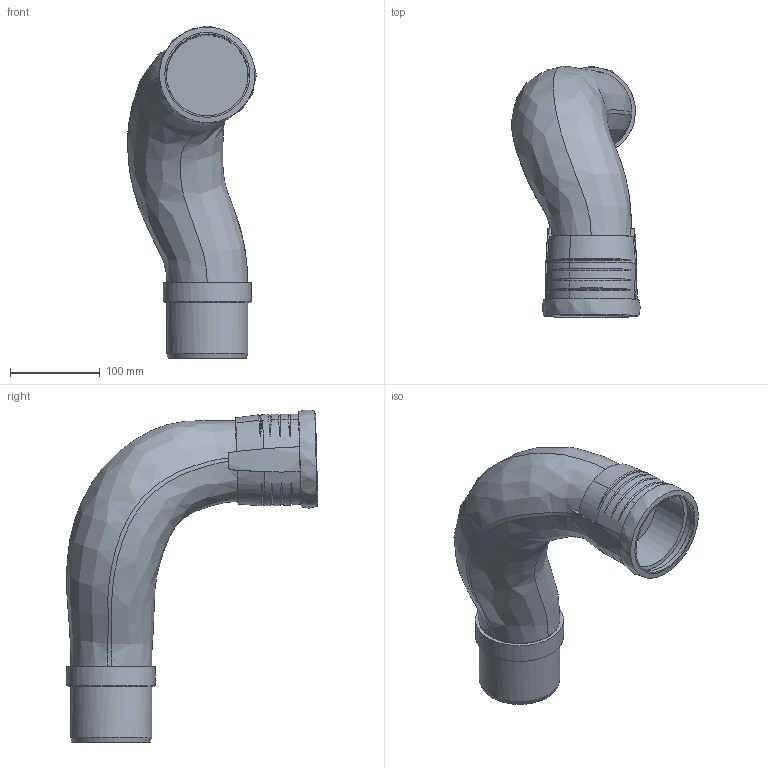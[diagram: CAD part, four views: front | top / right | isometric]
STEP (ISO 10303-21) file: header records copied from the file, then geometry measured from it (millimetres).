
FILE_DESCRIPTION(/* description */ (''),/* implementation_level */ '2;1');
FILE_NAME(/* name */ 'C:\Planerdaten\Export PLA\393.426.14.1\stp\393426.stp',/* time_stamp */ '2022-09-16T14:45:14+02:00',/* author */ ('JANAN'),/* organization */ (''),/* preprocessor_version */ 'ST-DEVELOPER v18.1',/* originating_system */ 'Autodesk Inventor 2021',/* authorisation */ '');
FILE_SCHEMA (('AUTOMOTIVE_DESIGN { 1 0 10303 214 3 1 1 }'));
Length unit declared in the file: millimetre
Products named in the file (1): tmp1EFD.tmp
Bounding box: 143.58 x 280.57 x 370.27 mm (x, y, z)
Volume: 3151427.1 mm3; surface area: 211111 mm2
Topology: 1 solids, 1 shells, 57 faces, 161 edges, 109 vertices
Faces by surface type: bspline 37, plane 7, cylinder 7, cone 6
Full cylindrical faces by diameter (mm): 81.6 x1, 90.2 x2, 90.9 x1, 91.2 x1, 100.2 x1
Entity records: 11291 total; most frequent: CARTESIAN_POINT 9918, ORIENTED_EDGE 324, DIRECTION 194, EDGE_CURVE 162, VERTEX_POINT 111, AXIS2_PLACEMENT_3D 87, B_SPLINE_CURVE_WITH_KNOTS 76, CIRCLE 64
